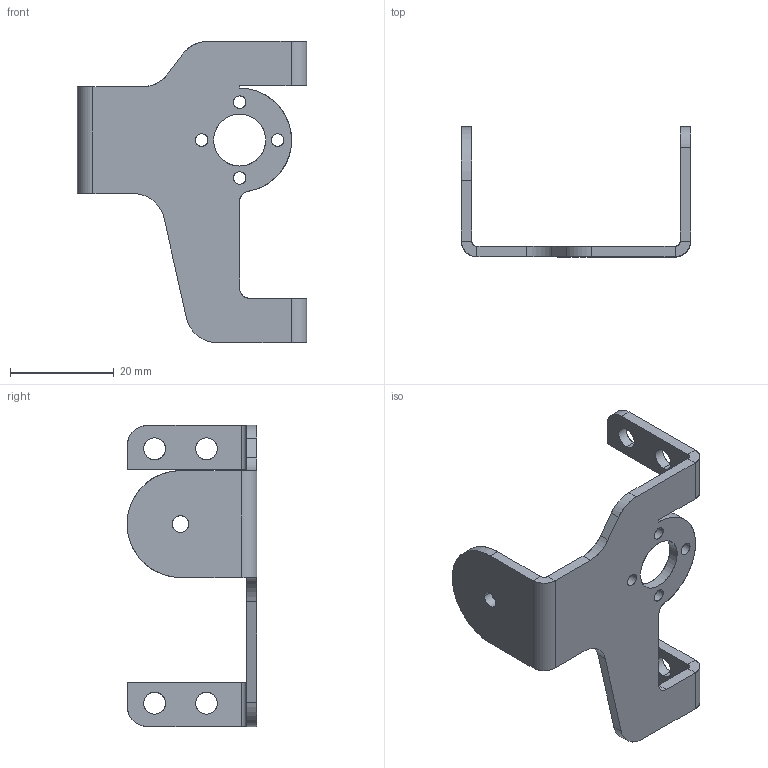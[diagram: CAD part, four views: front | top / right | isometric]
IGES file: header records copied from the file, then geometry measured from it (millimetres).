
Start section: SolidWorks IGES file using analytic representation for surfaces
Global section: file name: C:\Users\tahsi\Desktop\SMD\3D tasarýmlar\Building Set\Parts\1-Pan Mount\Pan Mount.IGS; native system: SolidWorks 2023; preprocessor: SolidWorks 2023; author: tahsi; date: 240624.145450; units: millimetre
Bounding box: 44.15 x 25 x 58 mm (x, y, z)
Surface area: 5152.8 mm2 (no closed solid volume)
Topology: 0 solids, 0 shells, 70 faces, 1196 edges, 1196 vertices
Faces by surface type: revolution 38, bspline 32
